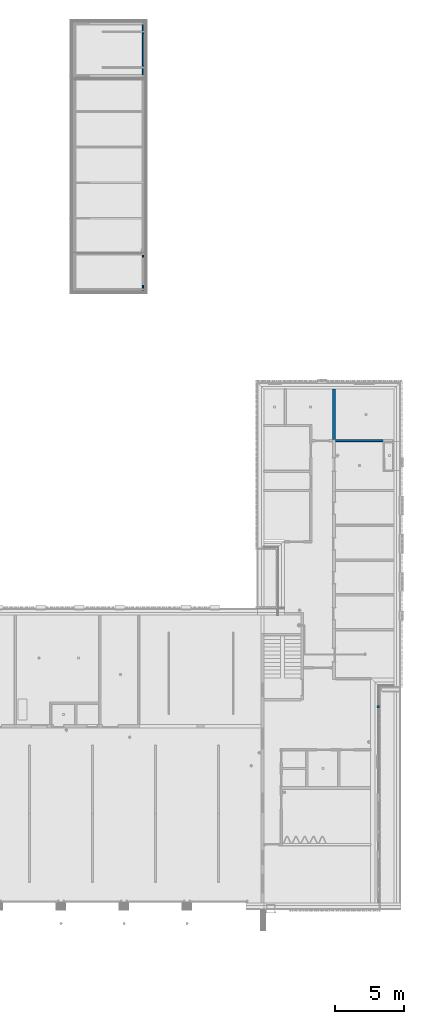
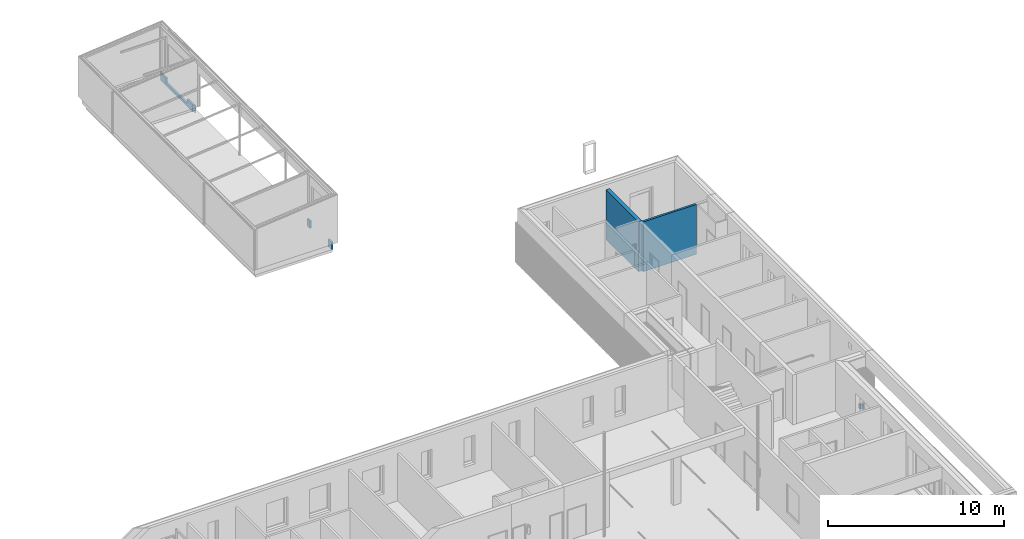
# One storey, part 18 of 112: 6 walls, 3 openings.
"""IFC2X3 building model written with IfcOpenShell, lengths in millimetres."""

from ifc_helpers import new_model, entity, si_unit, converted_unit, derived_unit, money_unit, direction, frame, origin_with_axes, origin_2d_with_axis, place, context, subcontext, project, spatial, polyline, rectangle, outline, extrude, material, layer, layer_set, layer_usage, type_object, element, save


model = new_model("IFC2X3")

# Units and contexts
model_context = context("Model", 3, precision=0.01, world=origin_with_axes(), true_north=direction((0.0, 1.0)))
body_context = subcontext(model_context, "Body", "Model", "MODEL_VIEW")
ifc_project = project(units=[si_unit("LENGTHUNIT", "METRE", prefix="MILLI"), si_unit("AREAUNIT", "SQUARE_METRE"), si_unit("VOLUMEUNIT", "CUBIC_METRE"), converted_unit("PLANEANGLEUNIT", "DEGREE", entity("IfcPlaneAngleMeasure", 0.0174532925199), si_unit("PLANEANGLEUNIT", "RADIAN"), dimensions=[0, 0, 0, 0, 0, 0, 0]), si_unit("SOLIDANGLEUNIT", "STERADIAN"), money_unit("EUR"), converted_unit("TIMEUNIT", "Year", entity("IfcTimeMeasure", 31556926.0), si_unit("TIMEUNIT", "SECOND"), dimensions=[0, 0, 1, 0, 0, 0, 0]), si_unit("MASSUNIT", "GRAM", prefix="KILO"), si_unit("THERMODYNAMICTEMPERATUREUNIT", "DEGREE_CELSIUS"), si_unit("LUMINOUSINTENSITYUNIT", "LUMEN"), si_unit("ENERGYUNIT", "JOULE", prefix="MEGA"), derived_unit("THERMALCONDUCTANCEUNIT", [(si_unit("POWERUNIT", "WATT"), 1), (si_unit("LENGTHUNIT", "METRE"), -1), (si_unit("THERMODYNAMICTEMPERATUREUNIT", "KELVIN"), -1)]), derived_unit("SPECIFICHEATCAPACITYUNIT", [(si_unit("ENERGYUNIT", "JOULE"), 1), (si_unit("MASSUNIT", "GRAM", prefix="KILO"), -1), (si_unit("THERMODYNAMICTEMPERATUREUNIT", "KELVIN"), -1)]), derived_unit("MASSDENSITYUNIT", [(si_unit("MASSUNIT", "GRAM", prefix="KILO"), 1), (si_unit("VOLUMEUNIT", "CUBIC_METRE"), -1)])], contexts=[model_context])

# Site, building, storey
site_placement = place(None, origin_with_axes())
site = spatial("IfcSite", under=ifc_project, at=site_placement, Name="Politse- ja Piirivalveameti ning Päästeameti ühishoone", CompositionType="ELEMENT")
building_placement = place(site_placement, origin_with_axes())
building = spatial("IfcBuilding", under=site, at=building_placement, Name="Politse- ja Piirivalveameti ning Päästeameti ühishoone", CompositionType="ELEMENT")
storey_placement = place(building_placement, origin_with_axes())
storey = spatial("IfcBuildingStorey", under=building, at=storey_placement, Name="Esimene korrus", CompositionType="ELEMENT", Elevation=0.0)

# Walls
ifc_material_1 = material(Name="KON-05_Betoon Plokk - Konstuktsioon")
ifc_layer_1 = layer(ifc_material_1, 240.0, ventilated="UNKNOWN")
ifc_layer_set_1 = layer_set([ifc_layer_1], Name="SS-04_Sisesein 240")
ifc_layer_usage_1 = layer_usage(ifc_layer_set_1, "AXIS2", "NEGATIVE", 240.0)
wall_type_1 = type_object("IfcWallType", Name="SS-04_Sisesein 240 240", PredefinedType="NOTDEFINED")
wall_1_placement = place(storey_placement, frame((65160.5595507, 37499.9521318, 0.0), z_axis=(0.0, 0.0, 1.0), x_axis=(0.0, -1.0, 0.0)))
element("IfcWallStandardCase", 1, at=wall_1_placement, inside=storey, type_object=wall_type_1, material=ifc_layer_usage_1, Name="SS-04", context=body_context, shape_type="SweptSolid", body=[
    extrude(outline(polyline([(0.0, 0.0), (3699.88188769, 0.0), (3699.88188769, 240.0), (0.0, 240.0), (0.0, 0.0)])), origin_with_axes(), (0.0, 0.0, 1.0), 3460.0),
])
ifc_layer_2 = layer(ifc_material_1, 140.0, ventilated="UNKNOWN")
ifc_layer_set_2 = layer_set([ifc_layer_2], Name="SS-02_Sisesein 140")
ifc_layer_usage_2 = layer_usage(ifc_layer_set_2, "AXIS2", "NEGATIVE", 140.0)
wall_type_2 = type_object("IfcWallType", Name="SS-02_Sisesein 140 140", PredefinedType="NOTDEFINED")
wall_2_placement = place(storey_placement, frame((68880.4231925, 33800.0702441, 0.0), z_axis=(0.0, 0.0, 1.0), x_axis=(-1.0, 0.0, 0.0)))
element("IfcWallStandardCase", 2, at=wall_2_placement, inside=storey, type_object=wall_type_2, material=ifc_layer_usage_2, Name="SS-02", context=body_context, shape_type="SweptSolid", body=[
    extrude(outline(polyline([(0.0, 0.0), (3479.86364179, 0.0), (3479.86364179, 140.0), (0.0, 140.0), (0.0, 0.0)])), origin_with_axes(), (0.0, 0.0, 1.0), 3460.0),
])

# Wall, opening
ifc_material_2 = material(Name="KON-04_Betoon - Konstuktsioon")
ifc_layer_3 = layer(ifc_material_2, 120.0, ventilated="UNKNOWN")
ifc_layer_set_3 = layer_set([ifc_layer_3], Name="VS-32_garaazi sokkel")
ifc_layer_usage_3 = layer_usage(ifc_layer_set_3, "AXIS2", "POSITIVE", -60.0)
wall_type_3 = type_object("IfcWallType", Name="VS-32_garaazi sokkel 120", PredefinedType="NOTDEFINED")
wall_3_placement = place(storey_placement, frame((51341.8237405, 64149.8510263, -195.0), z_axis=(0.0, 0.0, 1.0), x_axis=(0.0, -1.0, 0.0)))
wall_3 = element("IfcWallStandardCase", 3, at=wall_3_placement, inside=storey, type_object=wall_type_3, material=ifc_layer_usage_3, Name="VS-42", context=body_context, shape_type="SweptSolid", body=[
    extrude(outline(polyline([(95.0, -60.0), (3705.0, -60.0), (3895.0, 60.0), (-95.0, 60.0), (95.0, -60.0)])), origin_with_axes(), (0.0, 0.0, 1.0), 495.0),
])
opening_1_placement = place(wall_3_placement, frame((1900.0000059, 0.0, 195.0), z_axis=(0.0, 0.0, 1.0), x_axis=(1.0, 0.0, 0.0)))
element("IfcOpeningElement", 4, at=opening_1_placement, cuts=wall_3, Name="TÜHI AVA", context=body_context, shape_type="SweptSolid", body=[
    extrude(rectangle(XDim=2400.0, YDim=2100.0, at=origin_2d_with_axis()), frame((0.0, -120.0, 1050.0), z_axis=(0.0, -1.0, 0.0), x_axis=(1.0, 0.0, 0.0)), (0.0, 0.0, -1.0), 360.0),
])

ifc_layer_usage_4 = layer_usage(ifc_layer_set_3, "AXIS2", "POSITIVE", -60.0)
wall_4_placement = place(storey_placement, frame((51341.8237405, 47399.8510263, -195.0), z_axis=(0.0, 0.0, 1.0), x_axis=(0.0, -1.0, 0.0)))
wall_4 = element("IfcWallStandardCase", 5, at=wall_4_placement, inside=storey, type_object=wall_type_3, material=ifc_layer_usage_4, Name="VS-42", context=body_context, shape_type="SweptSolid", body=[
    extrude(outline(polyline([(5.13722397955e-09, -60.0), (299.564730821, -60.0), (299.564730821, 60.0), (5.13722397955e-09, 60.0), (5.13722397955e-09, -60.0)])), origin_with_axes(), (0.0, 0.0, 1.0), 495.0),
])
opening_2_placement = place(wall_4_placement, frame((1799.21401865, 0.0, 195.0), z_axis=(0.0, 0.0, 1.0), x_axis=(1.0, 0.0, 0.0)))
element("IfcOpeningElement", 6, at=opening_2_placement, cuts=wall_4, Name="TÜHI AVA", context=body_context, shape_type="SweptSolid", body=[
    extrude(rectangle(XDim=2400.0, YDim=2100.0, at=origin_2d_with_axis()), frame((0.0, -120.0, 1050.0), z_axis=(0.0, -1.0, 0.0), x_axis=(1.0, 0.0, 0.0)), (0.0, 0.0, -1.0), 360.0),
])

ifc_layer_usage_5 = layer_usage(ifc_layer_set_3, "AXIS2", "POSITIVE", -60.0)
wall_5_placement = place(storey_placement, frame((51341.8237405, 45055.2017444, -195.0), z_axis=(0.0, 0.0, 1.0), x_axis=(0.0, -1.0, 0.0)))
wall_5 = element("IfcWallStandardCase", 7, at=wall_5_placement, inside=storey, type_object=wall_type_3, material=ifc_layer_usage_5, Name="VS-42", context=body_context, shape_type="SweptSolid", body=[
    extrude(outline(polyline([(0.0, -60.0), (400.350718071, -60.0), (400.350718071, 60.0), (0.0, 60.0), (0.0, -60.0)])), origin_with_axes(), (0.0, 0.0, 1.0), 495.0),
])
opening_3_placement = place(wall_5_placement, frame((1900.0000059, 0.0, 195.0), z_axis=(0.0, 0.0, 1.0), x_axis=(1.0, 0.0, 0.0)))
element("IfcOpeningElement", 8, at=opening_3_placement, cuts=wall_5, Name="TÜHI AVA", context=body_context, shape_type="SweptSolid", body=[
    extrude(rectangle(XDim=2400.0, YDim=2100.0, at=origin_2d_with_axis()), frame((0.0, -120.0, 1050.0), z_axis=(0.0, -1.0, 0.0), x_axis=(1.0, 0.0, 0.0)), (0.0, 0.0, -1.0), 360.0),
])

# Wall
ifc_material_3 = material(Name="Õhkvahe")
ifc_layer_4 = layer(ifc_material_3, 200.0, ventilated="UNKNOWN")
ifc_layer_set_4 = layer_set([ifc_layer_4], Name="Õhkvahe 200")
ifc_layer_usage_6 = layer_usage(ifc_layer_set_4, "AXIS2", "NEGATIVE", 0.0)
wall_type_4 = type_object("IfcWallType", Name="Õhkvahe 200", PredefinedType="NOTDEFINED")
wall_6_placement = place(storey_placement, frame((68602.441465, 14402.9890326, 1195.49097108), z_axis=(0.0, 0.0, 1.0), x_axis=(0.0, -1.0, 0.0)))
element("IfcWallStandardCase", 9, at=wall_6_placement, inside=storey, type_object=wall_type_4, material=ifc_layer_usage_6, Name="SS-16", context=body_context, shape_type="SweptSolid", body=[
    extrude(outline(polyline([(0.0, -200.0), (200.0, -200.0), (200.0, 0.0), (0.0, 0.0), (0.0, -200.0)])), origin_with_axes(), (0.0, 0.0, 1.0), 304.509028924),
])

save(model, "model.ifc")
